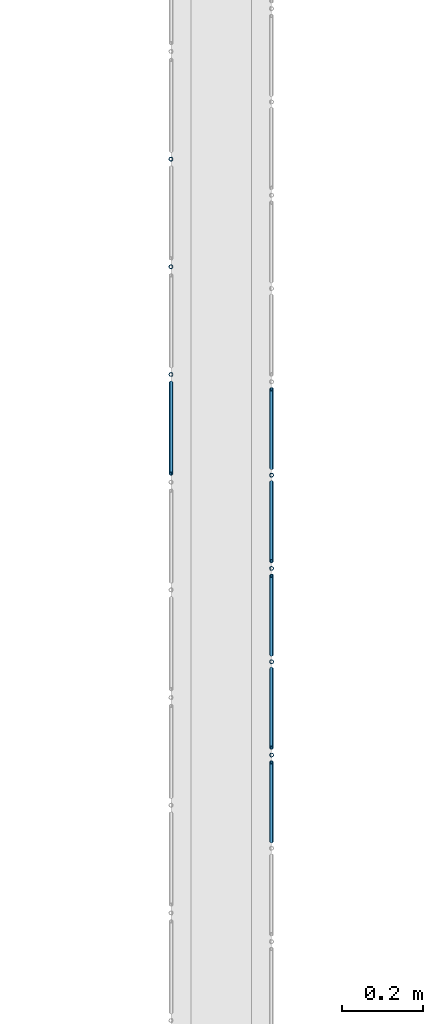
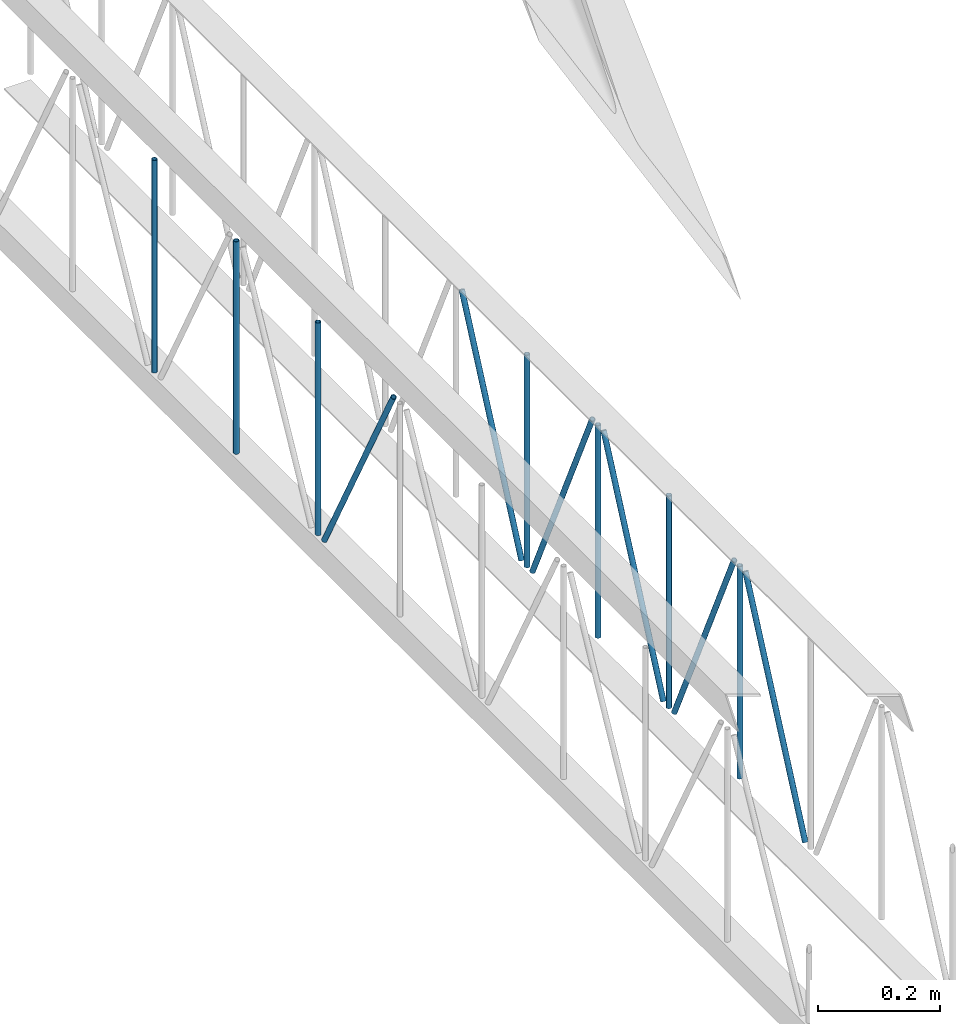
# One storey, part 52 of 153: 13 members, 2 elements without a shape of their own.
"""IFC4 building model written with IfcOpenShell, lengths in metres."""

from ifc_helpers import new_model, entity, si_unit, converted_unit, derived_unit, direction, frame, origin, place, context, subcontext, project, spatial, arc, indexed_curve, outline, extrude, source, transform, mapped, material, type_object, type_shapes, element, aggregate, save


model = new_model("IFC4")

# Units and contexts
model_context = context("Model", 3, precision=1e-05, world=origin(), true_north=direction((6.123031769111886e-17, 1.0)))
body_context = subcontext(model_context, "Body", "Model", "MODEL_VIEW")
ifc_project = project(units=[si_unit("LENGTHUNIT", "METRE"), si_unit("AREAUNIT", "SQUARE_METRE"), si_unit("VOLUMEUNIT", "CUBIC_METRE"), converted_unit("PLANEANGLEUNIT", "DEGREE", entity("IfcRatioMeasure", 0.017453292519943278), si_unit("PLANEANGLEUNIT", "RADIAN"), dimensions=[0, 0, 0, 0, 0, 0, 0]), si_unit("MASSUNIT", "GRAM", prefix="KILO"), derived_unit("MASSDENSITYUNIT", [(si_unit("MASSUNIT", "GRAM", prefix="KILO"), 1), (si_unit("LENGTHUNIT", "METRE"), -3)]), derived_unit("MOMENTOFINERTIAUNIT", [(si_unit("LENGTHUNIT", "METRE"), 4)]), si_unit("TIMEUNIT", "SECOND"), si_unit("FREQUENCYUNIT", "HERTZ"), si_unit("THERMODYNAMICTEMPERATUREUNIT", "DEGREE_CELSIUS"), derived_unit("THERMALTRANSMITTANCEUNIT", [(si_unit("MASSUNIT", "GRAM", prefix="KILO"), 1), (si_unit("THERMODYNAMICTEMPERATUREUNIT", "KELVIN"), -1), (si_unit("TIMEUNIT", "SECOND"), -3)]), derived_unit("VOLUMETRICFLOWRATEUNIT", [(si_unit("LENGTHUNIT", "METRE"), 3), (si_unit("TIMEUNIT", "SECOND"), -1)]), derived_unit("MASSFLOWRATEUNIT", [(si_unit("MASSUNIT", "GRAM", prefix="KILO"), 1), (si_unit("TIMEUNIT", "SECOND"), -1)]), derived_unit("ROTATIONALFREQUENCYUNIT", [(si_unit("TIMEUNIT", "SECOND"), -1)]), si_unit("ELECTRICCURRENTUNIT", "AMPERE"), si_unit("ELECTRICVOLTAGEUNIT", "VOLT"), si_unit("POWERUNIT", "WATT"), si_unit("FORCEUNIT", "NEWTON", prefix="KILO"), si_unit("ILLUMINANCEUNIT", "LUX"), si_unit("LUMINOUSFLUXUNIT", "LUMEN"), si_unit("LUMINOUSINTENSITYUNIT", "CANDELA"), derived_unit("USERDEFINED", [(si_unit("MASSUNIT", "GRAM", prefix="KILO"), -1), (si_unit("LENGTHUNIT", "METRE"), -2), (si_unit("TIMEUNIT", "SECOND"), 3), (si_unit("LUMINOUSFLUXUNIT", "LUMEN"), 1)]), derived_unit("SOUNDPOWERUNIT", [(si_unit("MASSUNIT", "GRAM", prefix="KILO"), 1), (si_unit("LENGTHUNIT", "METRE"), 2), (si_unit("TIMEUNIT", "SECOND"), -3)]), derived_unit("SOUNDPRESSUREUNIT", [(si_unit("MASSUNIT", "GRAM", prefix="KILO"), 1), (si_unit("LENGTHUNIT", "METRE"), -1), (si_unit("TIMEUNIT", "SECOND"), -2)]), derived_unit("LINEARVELOCITYUNIT", [(si_unit("LENGTHUNIT", "METRE"), 1), (si_unit("TIMEUNIT", "SECOND"), -1)]), si_unit("PRESSUREUNIT", "PASCAL"), derived_unit("USERDEFINED", [(si_unit("LENGTHUNIT", "METRE"), -2), (si_unit("MASSUNIT", "GRAM", prefix="KILO"), 1), (si_unit("TIMEUNIT", "SECOND"), -2)]), derived_unit("LINEARFORCEUNIT", [(si_unit("MASSUNIT", "GRAM", prefix="KILO"), 1), (si_unit("LENGTHUNIT", "METRE"), 1), (si_unit("TIMEUNIT", "SECOND"), -2), (si_unit("LENGTHUNIT", "METRE"), -1)]), derived_unit("PLANARFORCEUNIT", [(si_unit("MASSUNIT", "GRAM", prefix="KILO"), 1), (si_unit("LENGTHUNIT", "METRE"), 1), (si_unit("TIMEUNIT", "SECOND"), -2), (si_unit("LENGTHUNIT", "METRE"), -2)])], contexts=[model_context])

# Site, building, storey
site_placement = place(None, origin())
site = spatial("IfcSite", under=ifc_project, at=site_placement, Name="Superficie", CompositionType="ELEMENT")
building_placement = place(site_placement, origin())
building = spatial("IfcBuilding", under=site, at=building_placement, CompositionType="ELEMENT")
storey_placement = place(building_placement, frame((0.0, 0.0, 3.5999999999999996)))
storey = spatial("IfcBuildingStorey", under=building, at=storey_placement, Name="Nivel 1", CompositionType="ELEMENT", Elevation=3.5999999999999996)

# Assembly, members
assembly_1_placement = place(storey_placement, origin())
assembly_1 = element("IfcElementAssembly", 1, at=assembly_1_placement, inside=storey, Name="Viga de celosia 13:Viga de celosia 13", ObjectType="Viga de celosia 13:Viga de celosia 13", AssemblyPlace="NOTDEFINED", PredefinedType="TRUSS")
ifc_material = material(Name="Metal - Calibre delgado", Category="Metal")
member_type_1 = type_object("IfcMemberType", Name="HSS-Tubo estructural redondo:HSS 0.01", PredefinedType="BRACE", material=ifc_material)
shared_shape_1 = source(origin(), body_context, "Body", "SweptSolid", [
    extrude(outline(indexed_curve([(-0.005000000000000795, 7.502054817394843e-18), (-9.800269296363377e-18, -0.005000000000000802), (0.005000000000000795, -7.502054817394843e-18), (8.07772287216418e-18, 0.005000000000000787)], segments=[arc(1, 2, 3), arc(3, 4, 1)], self_intersect=False), holes=[indexed_curve([(0.003999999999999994, 7.222511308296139e-17), (6.910645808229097e-17, -0.004000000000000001), (-0.003999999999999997, -1.8650054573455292e-17), (-2.9156497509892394e-17, 0.003999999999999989)], segments=[arc(1, 2, 3), arc(3, 4, 1)], self_intersect=False)]), frame((-0.21200000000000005, 0.0, 0.0), z_axis=(1.0, 0.0, 0.0), x_axis=(0.0, 1.0, 0.0)), (0.0, 0.0, 1.0), 0.4240000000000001),
])
type_shapes(member_type_1, [shared_shape_1])
member_1_placement = place(assembly_1_placement, frame((1.0367990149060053, -11.071002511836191, 0.24999999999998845), z_axis=(0.0, 1.0, 0.0), x_axis=(0.0, 0.0, 1.0)))
member_1 = element("IfcMember", 2, at=member_1_placement, type_object=member_type_1, material=ifc_material, Name="HSS-Tubo estructural redondo:HSS 0.01", ObjectType="HSS-Tubo estructural redondo:HSS 0.01", PredefinedType="BRACE", context=body_context, shape_type="MappedRepresentation", body=[
    mapped(shared_shape_1, transform((0.0, 0.0, 0.0), scale=1.0)),
])
member_2_placement = place(assembly_1_placement, frame((1.0367990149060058, -10.803502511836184, 0.25), z_axis=(0.0, 1.0, 0.0), x_axis=(0.0, 0.0, 1.0)))
member_2 = element("IfcMember", 3, at=member_2_placement, type_object=member_type_1, material=ifc_material, Name="HSS-Tubo estructural redondo:HSS 0.01", ObjectType="HSS-Tubo estructural redondo:HSS 0.01", PredefinedType="BRACE", context=body_context, shape_type="MappedRepresentation", body=[
    mapped(shared_shape_1, transform((0.0, 0.0, 0.0), scale=1.0)),
])
member_3_placement = place(assembly_1_placement, frame((1.0367990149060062, -10.536002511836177, 0.25), z_axis=(0.0, 1.0, 0.0), x_axis=(0.0, 0.0, 1.0)))
member_3 = element("IfcMember", 4, at=member_3_placement, type_object=member_type_1, material=ifc_material, Name="HSS-Tubo estructural redondo:HSS 0.01", ObjectType="HSS-Tubo estructural redondo:HSS 0.01", PredefinedType="BRACE", context=body_context, shape_type="MappedRepresentation", body=[
    mapped(shared_shape_1, transform((0.0, 0.0, 0.0), scale=1.0)),
])

assembly_2_placement = place(storey_placement, origin())
assembly_2 = element("IfcElementAssembly", 5, at=assembly_2_placement, inside=storey, Name="Viga de celosia 13:Viga de celosia 13", ObjectType="Viga de celosia 13:Viga de celosia 13", AssemblyPlace="NOTDEFINED", PredefinedType="TRUSS")
member_type_2 = type_object("IfcMemberType", Name="HSS-Tubo estructural redondo:HSS 0.01", PredefinedType="BRACE", material=ifc_material)
shared_shape_2 = source(origin(), body_context, "Body", "SweptSolid", [
    extrude(outline(indexed_curve([(-0.005000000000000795, 2.0824731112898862e-17), (-2.3122945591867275e-17, -0.005000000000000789), (0.005000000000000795, -2.08247311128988e-17), (2.14003991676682e-17, 0.005000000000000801)], segments=[arc(1, 2, 3), arc(3, 4, 1)], self_intersect=False), holes=[indexed_curve([(0.003999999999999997, -1.3094283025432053e-17), (-1.531427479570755e-18, -0.003999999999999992), (-0.004, 4.0098531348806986e-17), (4.1481388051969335e-17, 0.0039999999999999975)], segments=[arc(1, 2, 3), arc(3, 4, 1)], self_intersect=False)]), frame((-0.21200000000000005, 0.0, 0.0), z_axis=(1.0, 0.0, 0.0), x_axis=(0.0, -1.0, 0.0)), (0.0, 0.0, 1.0), 0.4240000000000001),
])
type_shapes(member_type_2, [shared_shape_2])
member_4_placement = place(assembly_2_placement, frame((1.2867990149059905, -12.016359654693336, 0.25), z_axis=(0.0, 1.0, 0.0), x_axis=(0.0, 0.0, 1.0)))
member_4 = element("IfcMember", 6, at=member_4_placement, type_object=member_type_2, material=ifc_material, Name="HSS-Tubo estructural redondo:HSS 0.01", ObjectType="HSS-Tubo estructural redondo:HSS 0.01", PredefinedType="BRACE", context=body_context, shape_type="MappedRepresentation", body=[
    mapped(shared_shape_2, transform((0.0, 0.0, 0.0), scale=1.0)),
])
member_5_placement = place(assembly_2_placement, frame((1.2867990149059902, -11.784573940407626, 0.25), z_axis=(0.0, 1.0, 0.0), x_axis=(0.0, 0.0, 1.0)))
member_5 = element("IfcMember", 7, at=member_5_placement, type_object=member_type_2, material=ifc_material, Name="HSS-Tubo estructural redondo:HSS 0.01", ObjectType="HSS-Tubo estructural redondo:HSS 0.01", PredefinedType="BRACE", context=body_context, shape_type="MappedRepresentation", body=[
    mapped(shared_shape_2, transform((0.0, 0.0, 0.0), scale=1.0)),
])
member_6_placement = place(assembly_2_placement, frame((1.2867990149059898, -11.552788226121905, 0.25), z_axis=(0.0, 1.0, 0.0), x_axis=(0.0, 0.0, 1.0)))
member_6 = element("IfcMember", 8, at=member_6_placement, type_object=member_type_2, material=ifc_material, Name="HSS-Tubo estructural redondo:HSS 0.01", ObjectType="HSS-Tubo estructural redondo:HSS 0.01", PredefinedType="BRACE", context=body_context, shape_type="MappedRepresentation", body=[
    mapped(shared_shape_2, transform((0.0, 0.0, 0.0), scale=1.0)),
])
member_7_placement = place(assembly_2_placement, frame((1.2867990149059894, -11.3210025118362, 0.24999999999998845), z_axis=(0.0, 1.0, 0.0), x_axis=(0.0, 0.0, 1.0)))
member_7 = element("IfcMember", 9, at=member_7_placement, type_object=member_type_2, material=ifc_material, Name="HSS-Tubo estructural redondo:HSS 0.01", ObjectType="HSS-Tubo estructural redondo:HSS 0.01", PredefinedType="BRACE", context=body_context, shape_type="MappedRepresentation", body=[
    mapped(shared_shape_2, transform((0.0, 0.0, 0.0), scale=1.0)),
])

# Member
member_type_3 = type_object("IfcMemberType", Name="HSS-Tubo estructural redondo:HSS 0.01", PredefinedType="BRACE", material=ifc_material)
shared_shape_3 = source(origin(), body_context, "Body", "SweptSolid", [
    extrude(outline(indexed_curve([(-0.005000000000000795, 7.502054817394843e-18), (-9.800269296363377e-18, -0.005000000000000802), (0.005000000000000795, -7.502054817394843e-18), (8.07772287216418e-18, 0.005000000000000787)], segments=[arc(1, 2, 3), arc(3, 4, 1)], self_intersect=False), holes=[indexed_curve([(0.003999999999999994, 7.222511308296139e-17), (6.910645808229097e-17, -0.004000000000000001), (-0.003999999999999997, -1.8650054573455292e-17), (-2.9156497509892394e-17, 0.003999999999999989)], segments=[arc(1, 2, 3), arc(3, 4, 1)], self_intersect=False)]), frame((-0.23950000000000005, 0.0, 0.0), z_axis=(1.0, 0.0, 0.0), x_axis=(0.0, 1.0, 0.0)), (0.0, 0.0, 1.0), 0.4790000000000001),
])
type_shapes(member_type_3, [shared_shape_3])
member_8_placement = place(assembly_1_placement, frame((1.0367990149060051, -11.20475251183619, 0.25), z_axis=(0.0, -0.8817419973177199, -0.47173196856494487), x_axis=(0.0, 0.47173196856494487, -0.8817419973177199)))
member_8 = element("IfcMember", 10, at=member_8_placement, type_object=member_type_3, material=ifc_material, Name="HSS-Tubo estructural redondo:HSS 0.01", ObjectType="HSS-Tubo estructural redondo:HSS 0.01", PredefinedType="BRACE", context=body_context, shape_type="MappedRepresentation", body=[
    mapped(shared_shape_3, transform((0.0, 0.0, 0.0), scale=1.0)),
])

aggregate(assembly_1, [member_1, member_2, member_3, member_8])

member_type_4 = type_object("IfcMemberType", Name="HSS-Tubo estructural redondo:HSS 0.01", PredefinedType="BRACE", material=ifc_material)
shared_shape_4 = source(origin(), body_context, "Body", "SweptSolid", [
    extrude(outline(indexed_curve([(-0.005000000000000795, 2.0824731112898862e-17), (-2.3122945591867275e-17, -0.005000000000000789), (0.005000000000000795, -2.08247311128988e-17), (2.14003991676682e-17, 0.005000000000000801)], segments=[arc(1, 2, 3), arc(3, 4, 1)], self_intersect=False), holes=[indexed_curve([(0.003999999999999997, -1.3094283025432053e-17), (-1.531427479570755e-18, -0.003999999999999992), (-0.004, 4.0098531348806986e-17), (4.1481388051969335e-17, 0.0039999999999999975)], segments=[arc(1, 2, 3), arc(3, 4, 1)], self_intersect=False)]), frame((-0.2325, 0.0, 0.0), z_axis=(1.0, 0.0, 0.0), x_axis=(0.0, -1.0, 0.0)), (0.0, 0.0, 1.0), 0.465),
])
type_shapes(member_type_4, [shared_shape_4])
member_9_placement = place(assembly_2_placement, frame((1.2867990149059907, -12.132252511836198, 0.25), z_axis=(0.0, 0.9072563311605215, -0.4205781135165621), x_axis=(0.0, 0.4205781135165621, 0.9072563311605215)))
member_9 = element("IfcMember", 11, at=member_9_placement, type_object=member_type_4, material=ifc_material, Name="HSS-Tubo estructural redondo:HSS 0.01", ObjectType="HSS-Tubo estructural redondo:HSS 0.01", PredefinedType="BRACE", context=body_context, shape_type="MappedRepresentation", body=[
    mapped(shared_shape_4, transform((0.0, 0.0, 0.0), scale=1.0)),
])

member_10_placement = place(assembly_2_placement, frame((1.2867990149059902, -11.900466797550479, 0.25), z_axis=(0.0, -0.907256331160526, -0.4205781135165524), x_axis=(0.0, 0.4205781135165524, -0.907256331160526)))
member_10 = element("IfcMember", 12, at=member_10_placement, type_object=member_type_4, material=ifc_material, Name="HSS-Tubo estructural redondo:HSS 0.01", ObjectType="HSS-Tubo estructural redondo:HSS 0.01", PredefinedType="BRACE", context=body_context, shape_type="MappedRepresentation", body=[
    mapped(shared_shape_4, transform((0.0, 0.0, 0.0), scale=1.0)),
])

member_11_placement = place(assembly_2_placement, frame((1.2867990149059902, -11.668681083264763, 0.25), z_axis=(0.0, 0.90725633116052, -0.4205781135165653), x_axis=(0.0, 0.4205781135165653, 0.90725633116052)))
member_11 = element("IfcMember", 13, at=member_11_placement, type_object=member_type_4, material=ifc_material, Name="HSS-Tubo estructural redondo:HSS 0.01", ObjectType="HSS-Tubo estructural redondo:HSS 0.01", PredefinedType="BRACE", context=body_context, shape_type="MappedRepresentation", body=[
    mapped(shared_shape_4, transform((0.0, 0.0, 0.0), scale=1.0)),
])

member_12_placement = place(assembly_2_placement, frame((1.2867990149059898, -11.43689536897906, 0.2499999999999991), z_axis=(0.0, -0.9072563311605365, -0.4205781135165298), x_axis=(0.0, 0.4205781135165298, -0.9072563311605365)))
member_12 = element("IfcMember", 14, at=member_12_placement, type_object=member_type_4, material=ifc_material, Name="HSS-Tubo estructural redondo:HSS 0.01", ObjectType="HSS-Tubo estructural redondo:HSS 0.01", PredefinedType="BRACE", context=body_context, shape_type="MappedRepresentation", body=[
    mapped(shared_shape_4, transform((0.0, 0.0, 0.0), scale=1.0)),
])

member_13_placement = place(assembly_2_placement, frame((1.2867990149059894, -11.205109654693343, 0.25), z_axis=(0.0, 0.907256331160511, -0.42057811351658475), x_axis=(0.0, 0.42057811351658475, 0.907256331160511)))
member_13 = element("IfcMember", 15, at=member_13_placement, type_object=member_type_4, material=ifc_material, Name="HSS-Tubo estructural redondo:HSS 0.01", ObjectType="HSS-Tubo estructural redondo:HSS 0.01", PredefinedType="BRACE", context=body_context, shape_type="MappedRepresentation", body=[
    mapped(shared_shape_4, transform((0.0, 0.0, 0.0), scale=1.0)),
])

aggregate(assembly_2, [member_4, member_5, member_6, member_7, member_9, member_10, member_11, member_12, member_13])

save(model, "model.ifc")
